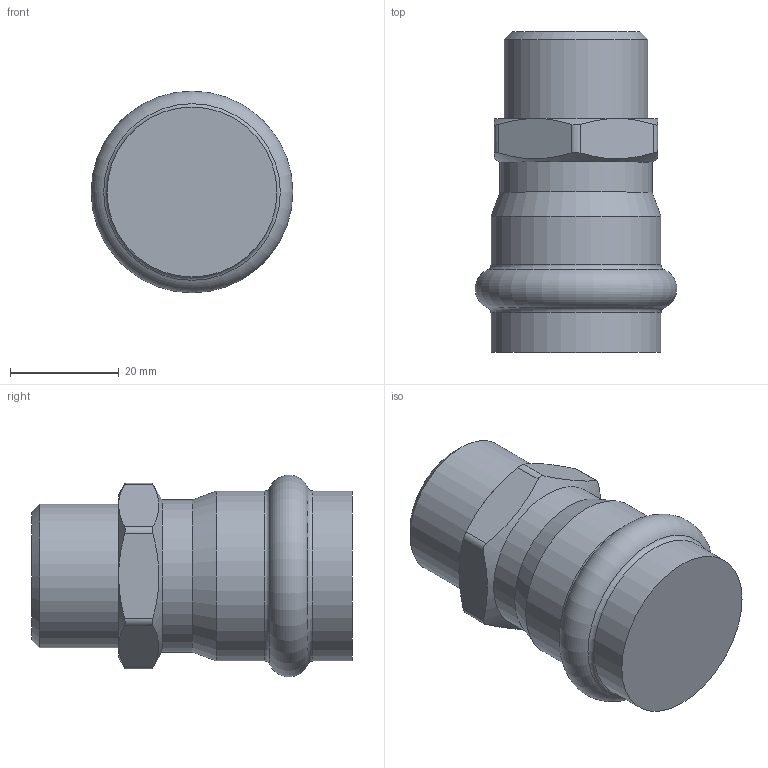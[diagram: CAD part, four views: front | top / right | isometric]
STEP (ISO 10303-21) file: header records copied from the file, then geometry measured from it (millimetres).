
FILE_DESCRIPTION(('STEP AP203'), '1');
FILE_NAME('VTi.901.I.002805', '', ('UNSPECIFIED'), ('UNSPECIFIED'), 'C3D Converter', 'C3D Toolkit', '');
FILE_SCHEMA(('CONFIG_CONTROL_DESIGN'));
Length unit declared in the file: millimetre
Bounding box: 37.1 x 59 x 37.1 mm (x, y, z)
Volume: 42196.6 mm3; surface area: 7410 mm2
Topology: 1 solids, 1 shells, 30 faces, 69 edges, 42 vertices
Faces by surface type: cylinder 10, plane 9, cone 8, torus 3
Full cylindrical faces by diameter (mm): 26.441 x1, 28 x1, 31.26 x2
Entity records: 1742 total; most frequent: CARTESIAN_POINT 1129, ORIENTED_EDGE 114, DIRECTION 104, EDGE_CURVE 57, AXIS2_PLACEMENT_3D 46, VERTEX_POINT 41, EDGE_LOOP 40, ADVANCED_FACE 29
